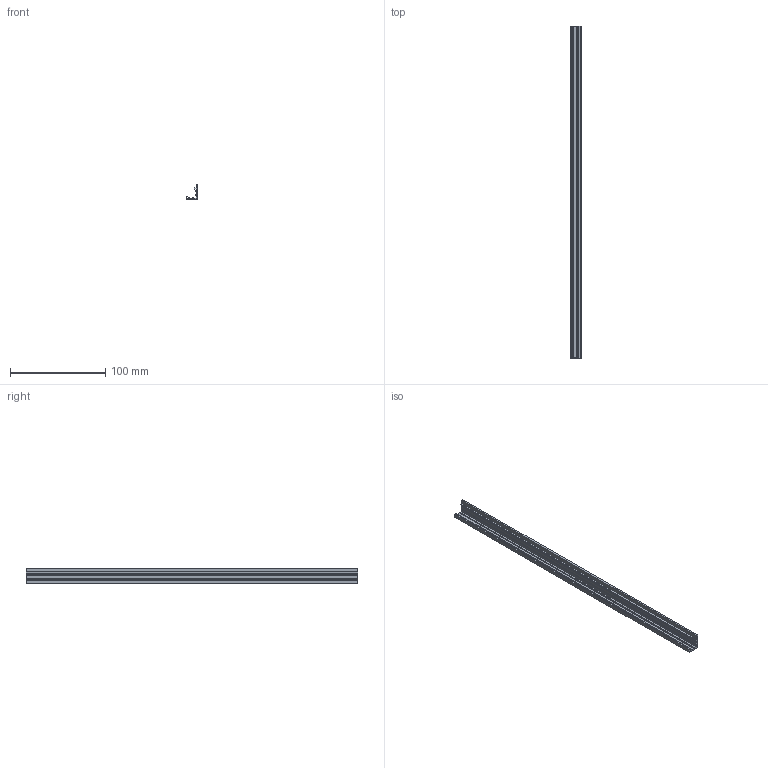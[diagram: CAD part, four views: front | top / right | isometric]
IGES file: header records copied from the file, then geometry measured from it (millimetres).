
Start section: Data from Parasolid IGES Translator 20.0.26, Copyright(c) 2006 Siemens P LM Software. All Rights Reserved.
Global section: file name: 9303916.igs; native system: By Siemens PLM Incorporated; preprocessor: XPlus GENERIC/IGES 20.0.26; author: Noname; organization: Noname; date: 20210826.154542; units: millimetre
Bounding box: 12.4 x 348.5 x 16.4 mm (x, y, z)
Surface area: 24440.6 mm2 (no closed solid volume)
Topology: 0 solids, 0 shells, 30 faces, 168 edges, 168 vertices
Faces by surface type: extrusion 30
